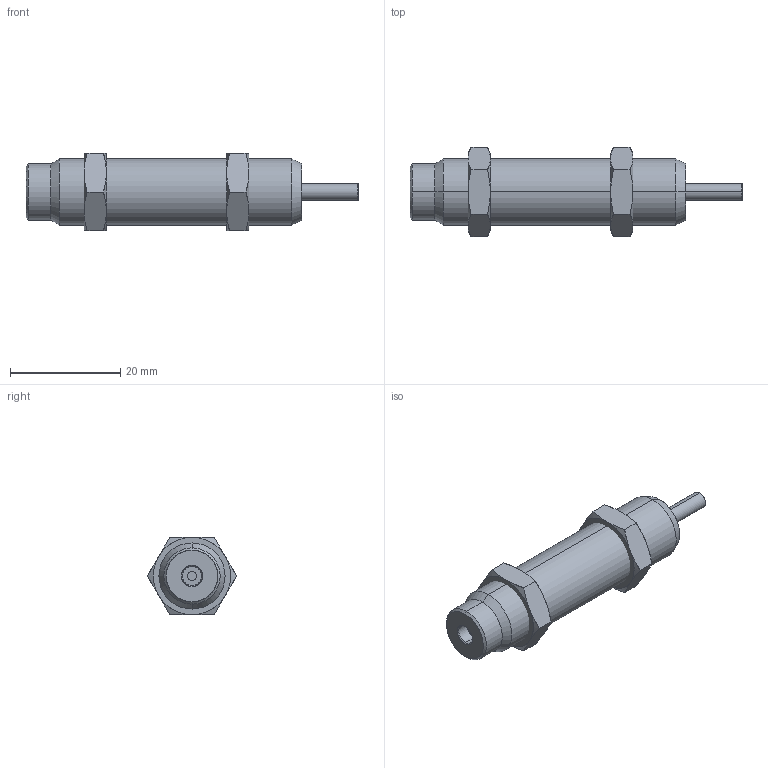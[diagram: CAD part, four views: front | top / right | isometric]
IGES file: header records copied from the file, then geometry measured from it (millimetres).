
Start section: SolidWorks IGES file using analytic representation for surfaces
Global section: file name: D:\IGS跡宒\AC1210-N.IGS,1; native system: 5HSolidWorks 2013; preprocessor: SolidWorks 2013; author: Administrator; date: 160406.151624; units: inch
Bounding box: 60.2 x 16.17 x 14 mm (x, y, z)
Surface area: 3073.8 mm2 (no closed solid volume)
Topology: 0 solids, 0 shells, 69 faces, 1072 edges, 1072 vertices
Faces by surface type: revolution 48, bspline 21
